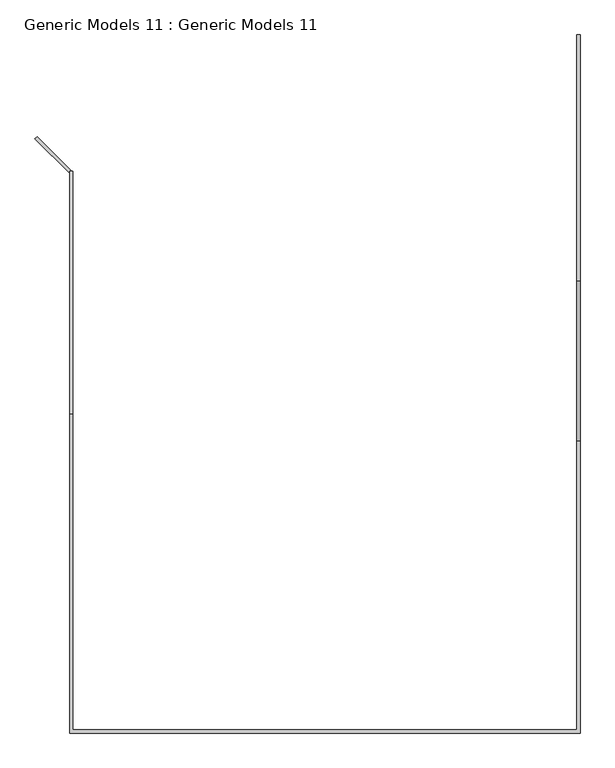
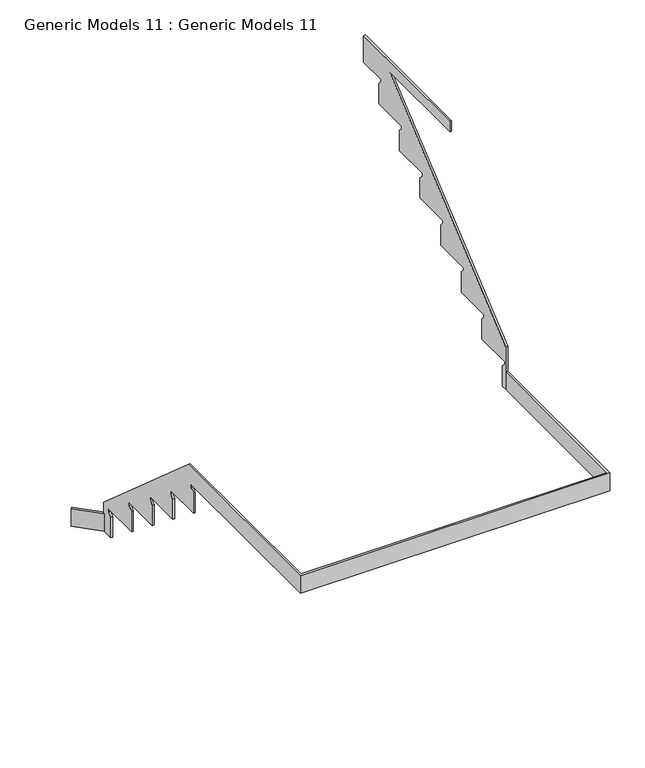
"""IFC4 building model written with IfcOpenShell, lengths in millimetres: proxy geometry, Generic Models 11 : Generic Models 11."""

from ifc_helpers import new_model, si_unit, frame, origin, place, context, project, spatial, polyline, outline, extrude, faceted_brep, source, transform, mapped, element, save


def generic_models_11_generic_models_11_a00f24be(model_context):
    return source(origin(), model_context, "Body", "SolidModel", [
        extrude(outline(polyline([(3263.9, 3060.7), (3058.8857212, 3060.7), (3058.8857212, 3041.65), (3084.2857212, 3016.25), (3084.2857212, 2869.40625), (2815.7714182, 2869.40625), (2815.7714182, 2850.35625), (2841.1714182, 2824.95625), (2841.1714182, 2678.1125), (2572.6571152, 2678.1125), (2572.6571152, 2659.0625), (2598.0571152, 2633.6625), (2598.0571152, 2486.81875), (2329.5428848, 2486.81875), (2329.5428848, 2467.76875), (2354.9428848, 2442.36875), (2354.9428848, 2295.525), (2086.4285091, 2295.525), (2086.4285091, 2276.475), (2111.8285091, 2251.075), (2111.8285091, 2104.23125), (1843.3142788, 2104.23125), (1843.3142788, 2085.18125), (1868.7142788, 2059.78125), (1868.7142788, 1912.9375), (1600.2000484, 1912.9375), (1600.2000484, 1893.8875), (1625.6000484, 1868.4875), (1625.6000484, 1721.64375), (1587.4999966, 1721.64375), (1587.4999966, 2026.44375), (2956.2960338, 3175.0), (2247.9, 3175.0), (2247.9, 3251.2), (3263.9, 3251.2), (3263.9, 3060.7)])), frame((6197.6, 0.0, 0.0), z_axis=(1.0, 0.0, 0.0), x_axis=(0.0, 1.0, 0.0)), (0.0, 0.0, 1.0), 12.7),
        faceted_brep([(4111.0799265, 2701.3805857, 765.175), (3967.9117687, 2844.5487435, 765.175), (3967.9117687, 2844.5487435, 892.175), (4111.0799265, 2701.3805857, 892.175), (4102.0996704, 2692.4003296, 892.175), (3958.9315126, 2835.5684874, 892.175), (3958.9315126, 2835.5684874, 765.175), (4102.0996704, 2692.4003296, 765.175), (4114.7996704, 2701.3805857, 765.175), (4114.7996704, 2615.2928606, 765.175), (4102.0996704, 2615.2928606, 765.175), (4102.0996704, 2701.3805857, 892.175), (4114.7996704, 2615.2928606, 912.01875), (4114.7996704, 2701.3805857, 968.375), (4114.7996704, 1700.5239369, 1848.2286094), (4114.7996704, 393.6999976, 1848.2245605), (4114.7996704, 393.6999976, 1721.64375), (4114.7996704, 1668.2357212, 1721.64375), (4114.7996704, 1668.2357212, 1702.59375), (4114.7996704, 1642.8357212, 1677.19375), (4114.7996704, 1642.8357212, 1530.35), (4114.7996704, 1911.3499516, 1530.35), (4114.7996704, 1911.3499516, 1511.3), (4114.7996704, 1885.9499516, 1485.9), (4114.7996704, 1885.9499516, 1339.05625), (4114.7996704, 2154.4643272, 1339.05625), (4114.7996704, 2154.4643272, 1320.00625), (4114.7996704, 2129.0643272, 1294.60625), (4114.7996704, 2129.0643272, 1147.7625), (4114.7996704, 2397.5785576, 1147.7625), (4114.7996704, 2397.5785576, 1128.7125), (4114.7996704, 2372.1785576, 1103.3125), (4114.7996704, 2372.1785576, 956.46875), (4114.7996704, 2640.6928606, 956.46875), (4114.7996704, 2640.6928606, 937.41875), (4102.0996704, 2615.2928606, 912.01875), (4102.0996704, 2640.6928606, 937.41875), (4102.0996704, 2640.6928606, 956.46875), (4102.0996704, 2372.1785576, 956.46875), (4102.0996704, 2372.1785576, 1103.3125), (4102.0996704, 2397.5785576, 1128.7125), (4102.0996704, 2397.5785576, 1147.7625), (4102.0996704, 2129.0643272, 1147.7625), (4102.0996704, 2129.0643272, 1294.60625), (4102.0996704, 2154.4643272, 1320.00625), (4102.0996704, 2154.4643272, 1339.05625), (4102.0996704, 1885.9499516, 1339.05625), (4102.0996704, 1885.9499516, 1485.9), (4102.0996704, 1911.3499516, 1511.3), (4102.0996704, 1911.3499516, 1530.35), (4102.0996704, 1642.8357212, 1530.35), (4102.0996704, 1642.8357212, 1677.19375), (4102.0996704, 1668.2357212, 1702.59375), (4102.0996704, 1668.2357212, 1721.64375), (4102.0996704, 381.0, 1721.64375), (4102.0996704, 381.0, 1848.2245212), (4102.0996704, 1700.5239369, 1848.2286094), (4102.0996704, 2701.3805857, 968.375), (6210.3, 381.0, 1848.2245212), (6210.3, 1587.4999966, 1848.2282592), (6197.5999989, 1587.4999966, 1848.2282592), (6197.5999989, 393.6999976, 1848.2245605), (6210.3, 381.0, 1721.64375), (6197.5999989, 393.6999976, 1721.64375), (6197.5999989, 1587.4999966, 1721.64375), (6210.3, 1587.4999966, 1721.64375)], [[[0, 1, 2, 3]], [[4, 5, 6, 7]], [[1, 0, 8, 9, 10, 7, 6]], [[2, 1, 6, 5]], [[3, 2, 5, 4, 11]], [[12, 9, 8, 13, 14, 15, 16, 17, 18, 19, 20, 21, 22, 23, 24, 25, 26, 27, 28, 29, 30, 31, 32, 33, 34]], [[35, 36, 37, 38, 39, 40, 41, 42, 43, 44, 45, 46, 47, 48, 49, 50, 51, 52, 53, 54, 55, 56, 57, 11, 4, 7, 10]], [[9, 12, 35, 10]], [[13, 8, 0, 3, 11, 57]], [[14, 13, 57, 56]], [[56, 55, 58, 59, 60, 61, 15, 14]], [[58, 55, 54, 62]], [[62, 54, 53, 17, 16, 63, 64, 65]], [[18, 17, 53, 52]], [[19, 18, 52, 51]], [[20, 19, 51, 50]], [[21, 20, 50, 49]], [[22, 21, 49, 48]], [[23, 22, 48, 47]], [[24, 23, 47, 46]], [[25, 24, 46, 45]], [[26, 25, 45, 44]], [[27, 26, 44, 43]], [[28, 27, 43, 42]], [[29, 28, 42, 41]], [[30, 29, 41, 40]], [[31, 30, 40, 39]], [[32, 31, 39, 38]], [[33, 32, 38, 37]], [[34, 33, 37, 36]], [[12, 34, 36, 35]], [[59, 58, 62, 65]], [[60, 59, 65, 64]], [[61, 60, 64, 63]], [[15, 61, 63, 16]]]),
    ])


if __name__ == "__main__":
    model = new_model("IFC4")
    model_context = context("Model", 3, world=origin())
    ifc_project = project(units=[si_unit("LENGTHUNIT", "METRE", prefix="MILLI")], contexts=[model_context])
    site = spatial("IfcSite", under=ifc_project)
    building = spatial("IfcBuilding", under=site)
    placement = place(None, origin())
    generic_models_11_generic_models_11_shape = generic_models_11_generic_models_11_a00f24be(model_context)
    element("IfcBuildingElementProxy", 1, Name="Generic Models 11 : Generic Models 11", ObjectType="Generic Models 11 : Generic Models 11", at=placement, inside=building, context=model_context, shape_type="MappedRepresentation", body=[
        mapped(generic_models_11_generic_models_11_shape, transform((0.0, 0.0, 0.0), x_axis=(1.0, 0.0, 0.0), y_axis=(0.0, 1.0, 0.0), z_axis=(0.0, 0.0, 1.0))),
    ])
    save(model, "model.ifc")
